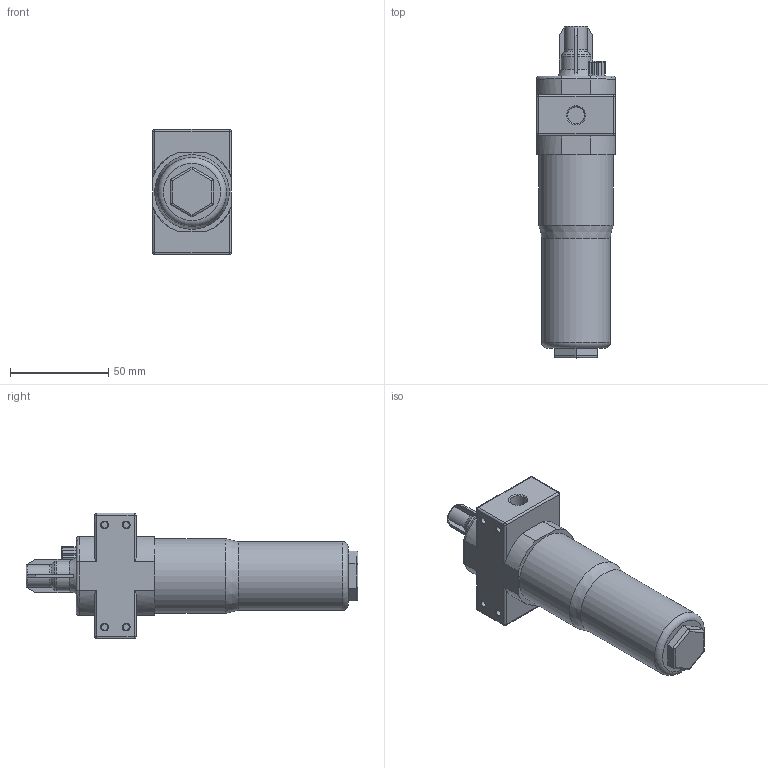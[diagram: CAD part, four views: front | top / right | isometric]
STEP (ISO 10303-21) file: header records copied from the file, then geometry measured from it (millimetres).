
FILE_DESCRIPTION(/* description */ ('STEP AP214'),/* implementation_level */ '2;1');
FILE_NAME(/* name */ '90-OC-18.stp',/* time_stamp */ '2026-01-20T15:13:37+01:00',/* author */ ('Tschernatsch'),/* organization */ ('CADENAS'),/* preprocessor_version */ 'ST-DEVELOPER v20',/* originating_system */ 'Autodesk Inventor 2024',/* authorisation */ ' ');
FILE_SCHEMA (('AUTOMOTIVE_DESIGN { 1 0 10303 214 3 1 1 }'));
Length unit declared in the file: millimetre
Products named in the file (1): LOE-G1/8-MINI_____
Bounding box: 40 x 169 x 64 mm (x, y, z)
Volume: 185685.9 mm3; surface area: 25520.8 mm2
Topology: 1 solids, 1 shells, 182 faces, 444 edges, 266 vertices
Faces by surface type: cylinder 74, plane 66, torus 22, cone 12, sphere 8
Full cylindrical faces by diameter (mm): 3.242 x4, 8.566 x2, 35 x1, 38 x1
Entity records: 5630 total; most frequent: CARTESIAN_POINT 1379, DIRECTION 892, ORIENTED_EDGE 872, EDGE_CURVE 436, AXIS2_PLACEMENT_3D 334, VERTEX_POINT 266, LINE 224, VECTOR 224
